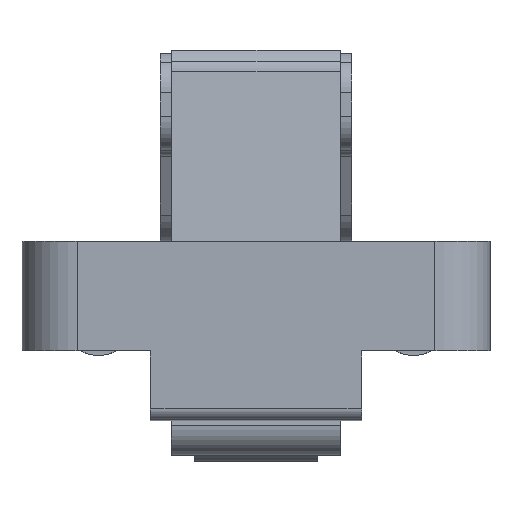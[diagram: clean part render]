
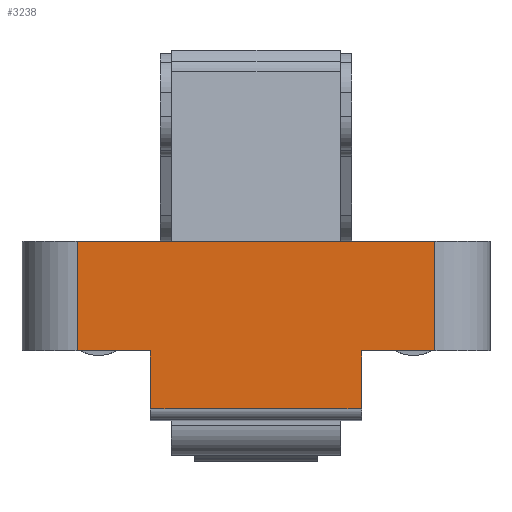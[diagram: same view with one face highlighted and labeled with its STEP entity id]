
A CAD part, top view. The second image highlights one B-rep face of the part: STEP entity #3238.
In plain terms, the highlighted planar face has unit normal (0, -0.008, 1).
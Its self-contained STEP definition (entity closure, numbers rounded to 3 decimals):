
#93 = EDGE_CURVE ( 'NONE', #2500, #1321, #1262, .T. ) ;
#116 = VECTOR ( 'NONE', #3397, 1000. ) ;
#189 = ORIENTED_EDGE ( 'NONE', *, *, #2119, .F. ) ;
#264 = VERTEX_POINT ( 'NONE', #707 ) ;
#282 = B_SPLINE_CURVE_WITH_KNOTS ( 'NONE', 3,
 ( #517, #2817, #4341, #4769 ),
 .UNSPECIFIED., .F., .F.,
 ( 4, 4 ),
 ( 0., 1. ),
 .UNSPECIFIED. ) ;
#327 = LINE ( 'NONE', #1864, #116 ) ;
#461 = ORIENTED_EDGE ( 'NONE', *, *, #2464, .T. ) ;
#517 = CARTESIAN_POINT ( 'NONE',  ( -4.75, -0.663, 30.996 ) ) ;
#548 = EDGE_CURVE ( 'NONE', #4286, #4325, #3268, .T. ) ;
#555 = CARTESIAN_POINT ( 'NONE',  ( 28.884, -0.663, 30.996 ) ) ;
#624 = CARTESIAN_POINT ( 'NONE',  ( 9.4, 14.162, 31.12 ) ) ;
#707 = CARTESIAN_POINT ( 'NONE',  ( 9.4, -0.663, 30.996 ) ) ;
#761 = VECTOR ( 'NONE', #2077, 1000. ) ;
#816 = CARTESIAN_POINT ( 'NONE',  ( -15.9, 14.162, 31.12 ) ) ;
#884 = VERTEX_POINT ( 'NONE', #2652 ) ;
#893 = CARTESIAN_POINT ( 'NONE',  ( 28.884, -0.663, 30.996 ) ) ;
#898 = LINE ( 'NONE', #1724, #2704 ) ;
#1027 = LINE ( 'NONE', #2558, #2923 ) ;
#1040 = DIRECTION ( 'NONE',  ( 0., 1., 0.008 ) ) ;
#1158 = CARTESIAN_POINT ( 'NONE',  ( -9.4, -0.663, 30.996 ) ) ;
#1255 = EDGE_CURVE ( 'NONE', #4424, #2716, #282, .T. ) ;
#1262 = LINE ( 'NONE', #3225, #4474 ) ;
#1321 = VERTEX_POINT ( 'NONE', #4818 ) ;
#1390 = CARTESIAN_POINT ( 'NONE',  ( 7.25, 4.462, 31.039 ) ) ;
#1484 = DIRECTION ( 'NONE',  ( 1., 0., 0. ) ) ;
#1629 = ORIENTED_EDGE ( 'NONE', *, *, #1255, .T. ) ;
#1648 = ORIENTED_EDGE ( 'NONE', *, *, #3128, .T. ) ;
#1691 = DIRECTION ( 'NONE',  ( 0., -1., -0.008 ) ) ;
#1702 = EDGE_CURVE ( 'NONE', #3846, #3218, #4692, .T. ) ;
#1709 = B_SPLINE_CURVE_WITH_KNOTS ( 'NONE', 3,
 ( #4460, #2172, #3700, #4668 ),
 .UNSPECIFIED., .F., .F.,
 ( 4, 4 ),
 ( 0., 1. ),
 .UNSPECIFIED. ) ;
#1724 = CARTESIAN_POINT ( 'NONE',  ( -15.9, 14.162, 31.12 ) ) ;
#1732 = LINE ( 'NONE', #2139, #4134 ) ;
#1754 = VERTEX_POINT ( 'NONE', #1764 ) ;
#1764 = CARTESIAN_POINT ( 'NONE',  ( -15.9, 14.162, 31.12 ) ) ;
#1792 = CARTESIAN_POINT ( 'NONE',  ( 7.9, -0.663, 30.996 ) ) ;
#1853 = EDGE_LOOP ( 'NONE', ( #2607, #3949, #2549, #2373, #1629, #189, #4350, #1648, #2641, #4214, #461 ) ) ;
#1864 = CARTESIAN_POINT ( 'NONE',  ( 7.25, 4.462, 31.039 ) ) ;
#2077 = DIRECTION ( 'NONE',  ( -1., 0., 0. ) ) ;
#2103 = DIRECTION ( 'NONE',  ( 0., -1., -0.008 ) ) ;
#2119 = EDGE_CURVE ( 'NONE', #264, #2716, #4783, .T. ) ;
#2139 = CARTESIAN_POINT ( 'NONE',  ( -9.4, 14.162, 31.12 ) ) ;
#2172 = CARTESIAN_POINT ( 'NONE',  ( -6.85, -0.663, 30.996 ) ) ;
#2369 = AXIS2_PLACEMENT_3D ( 'NONE', #816, #3512, #2707 ) ;
#2373 = ORIENTED_EDGE ( 'NONE', *, *, #3132, .T. ) ;
#2442 = CARTESIAN_POINT ( 'NONE',  ( -7.9, -0.663, 30.996 ) ) ;
#2460 = VECTOR ( 'NONE', #4475, 1000. ) ;
#2464 = EDGE_CURVE ( 'NONE', #1754, #4286, #898, .T. ) ;
#2500 = VERTEX_POINT ( 'NONE', #4364 ) ;
#2549 = ORIENTED_EDGE ( 'NONE', *, *, #1702, .F. ) ;
#2558 = CARTESIAN_POINT ( 'NONE',  ( -15.9, 14.162, 31.12 ) ) ;
#2607 = ORIENTED_EDGE ( 'NONE', *, *, #548, .T. ) ;
#2641 = ORIENTED_EDGE ( 'NONE', *, *, #93, .F. ) ;
#2652 = CARTESIAN_POINT ( 'NONE',  ( 9.4, 4.462, 31.039 ) ) ;
#2704 = VECTOR ( 'NONE', #2103, 1000. ) ;
#2707 = DIRECTION ( 'NONE',  ( -1., 0., 0. ) ) ;
#2716 = VERTEX_POINT ( 'NONE', #1792 ) ;
#2817 = CARTESIAN_POINT ( 'NONE',  ( -0.533, -0.663, 30.996 ) ) ;
#2923 = VECTOR ( 'NONE', #1484, 1000. ) ;
#2954 = CARTESIAN_POINT ( 'NONE',  ( -15.9, 4.462, 31.039 ) ) ;
#3019 = VECTOR ( 'NONE', #4351, 1000. ) ;
#3031 = CARTESIAN_POINT ( 'NONE',  ( -9.4, 4.462, 31.039 ) ) ;
#3047 = EDGE_CURVE ( 'NONE', #1754, #2500, #1027, .T. ) ;
#3128 = EDGE_CURVE ( 'NONE', #884, #1321, #327, .T. ) ;
#3132 = EDGE_CURVE ( 'NONE', #3846, #4424, #1709, .T. ) ;
#3218 = VERTEX_POINT ( 'NONE', #1158 ) ;
#3225 = CARTESIAN_POINT ( 'NONE',  ( 15.9, 14.162, 31.12 ) ) ;
#3238 = ADVANCED_FACE ( 'NONE', ( #4641 ), #4261, .F. ) ;
#3268 = LINE ( 'NONE', #1390, #3597 ) ;
#3397 = DIRECTION ( 'NONE',  ( 1., 0., 0. ) ) ;
#3512 = DIRECTION ( 'NONE',  ( 0., 0.008, -1. ) ) ;
#3535 = CARTESIAN_POINT ( 'NONE',  ( -4.75, -0.663, 30.996 ) ) ;
#3597 = VECTOR ( 'NONE', #3619, 1000. ) ;
#3619 = DIRECTION ( 'NONE',  ( 1., 0., 0. ) ) ;
#3700 = CARTESIAN_POINT ( 'NONE',  ( -5.8, -0.663, 30.996 ) ) ;
#3715 = LINE ( 'NONE', #624, #2460 ) ;
#3846 = VERTEX_POINT ( 'NONE', #2442 ) ;
#3940 = EDGE_CURVE ( 'NONE', #3218, #4325, #1732, .T. ) ;
#3949 = ORIENTED_EDGE ( 'NONE', *, *, #3940, .F. ) ;
#3996 = EDGE_CURVE ( 'NONE', #884, #264, #3715, .T. ) ;
#4134 = VECTOR ( 'NONE', #1040, 1000. ) ;
#4214 = ORIENTED_EDGE ( 'NONE', *, *, #3047, .F. ) ;
#4261 = PLANE ( 'NONE',  #2369 ) ;
#4286 = VERTEX_POINT ( 'NONE', #2954 ) ;
#4325 = VERTEX_POINT ( 'NONE', #3031 ) ;
#4341 = CARTESIAN_POINT ( 'NONE',  ( 3.683, -0.663, 30.996 ) ) ;
#4350 = ORIENTED_EDGE ( 'NONE', *, *, #3996, .F. ) ;
#4351 = DIRECTION ( 'NONE',  ( -1., 0., 0. ) ) ;
#4364 = CARTESIAN_POINT ( 'NONE',  ( 15.9, 14.162, 31.12 ) ) ;
#4424 = VERTEX_POINT ( 'NONE', #3535 ) ;
#4460 = CARTESIAN_POINT ( 'NONE',  ( -7.9, -0.663, 30.996 ) ) ;
#4474 = VECTOR ( 'NONE', #1691, 1000. ) ;
#4475 = DIRECTION ( 'NONE',  ( 0., -1., -0.008 ) ) ;
#4641 = FACE_OUTER_BOUND ( 'NONE', #1853, .T. ) ;
#4668 = CARTESIAN_POINT ( 'NONE',  ( -4.75, -0.663, 30.996 ) ) ;
#4692 = LINE ( 'NONE', #893, #761 ) ;
#4769 = CARTESIAN_POINT ( 'NONE',  ( 7.9, -0.663, 30.996 ) ) ;
#4783 = LINE ( 'NONE', #555, #3019 ) ;
#4818 = CARTESIAN_POINT ( 'NONE',  ( 15.9, 4.462, 31.039 ) ) ;
